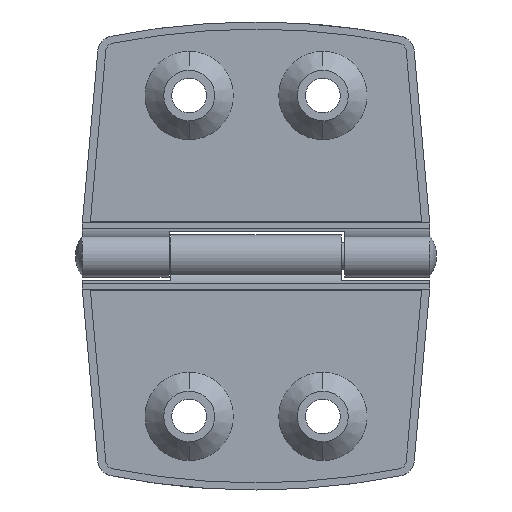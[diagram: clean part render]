
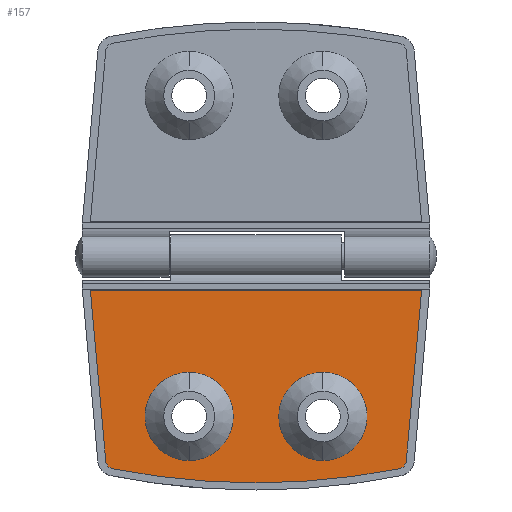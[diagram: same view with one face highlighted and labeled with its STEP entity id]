
A CAD part, front view. The second image highlights one B-rep face of the part: STEP entity #157.
In plain terms, the highlighted planar face has unit normal (0, -1, 0).
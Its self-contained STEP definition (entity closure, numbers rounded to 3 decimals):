
#157=ADVANCED_FACE('',(#290,#291,#292),#293,.F.);
#290=FACE_BOUND('',#494,.T.);
#291=FACE_BOUND('',#495,.T.);
#292=FACE_OUTER_BOUND('',#496,.T.);
#293=PLANE('',#497);
#494=EDGE_LOOP('',(#886,#887));
#495=EDGE_LOOP('',(#888,#889));
#496=EDGE_LOOP('',(#890,#891,#892,#893,#894,#895,#896));
#497=AXIS2_PLACEMENT_3D('',#897,#898,#899);
#886=ORIENTED_EDGE('',*,*,#1425,.T.);
#887=ORIENTED_EDGE('',*,*,#1488,.T.);
#888=ORIENTED_EDGE('',*,*,#1421,.T.);
#889=ORIENTED_EDGE('',*,*,#1490,.T.);
#890=ORIENTED_EDGE('',*,*,#1491,.T.);
#891=ORIENTED_EDGE('',*,*,#1495,.T.);
#892=ORIENTED_EDGE('',*,*,#1417,.T.);
#893=ORIENTED_EDGE('',*,*,#1499,.T.);
#894=ORIENTED_EDGE('',*,*,#1500,.T.);
#895=ORIENTED_EDGE('',*,*,#1503,.T.);
#896=ORIENTED_EDGE('',*,*,#1506,.T.);
#897=CARTESIAN_POINT('',(26.0,-1.2,-18.355));
#898=DIRECTION('',(0.,1.0,0.));
#899=DIRECTION('',(0.,0.0,-1.0));
#1417=EDGE_CURVE('',#1677,#1674,#1678,.T.);
#1421=EDGE_CURVE('',#1685,#1682,#1686,.T.);
#1425=EDGE_CURVE('',#1693,#1690,#1694,.T.);
#1488=EDGE_CURVE('',#1690,#1693,#1799,.T.);
#1490=EDGE_CURVE('',#1682,#1685,#1801,.T.);
#1491=EDGE_CURVE('',#1802,#1803,#1804,.T.);
#1495=EDGE_CURVE('',#1803,#1677,#1810,.T.);
#1499=EDGE_CURVE('',#1674,#1814,#1816,.T.);
#1500=EDGE_CURVE('',#1814,#1817,#1818,.T.);
#1503=EDGE_CURVE('',#1817,#1822,#1823,.T.);
#1506=EDGE_CURVE('',#1822,#1802,#1827,.T.);
#1674=VERTEX_POINT('',#2107);
#1677=VERTEX_POINT('',#2111);
#1678=CIRCLE('',#2112,110.5);
#1682=VERTEX_POINT('',#2117);
#1685=VERTEX_POINT('',#2121);
#1686=CIRCLE('',#2122,6.6);
#1690=VERTEX_POINT('',#2127);
#1693=VERTEX_POINT('',#2131);
#1694=CIRCLE('',#2132,6.6);
#1799=CIRCLE('',#2262,6.6);
#1801=CIRCLE('',#2264,6.6);
#1802=VERTEX_POINT('',#2265);
#1803=VERTEX_POINT('',#2266);
#1804=LINE('',#2267,#2268);
#1810=CIRCLE('',#2277,1.3);
#1814=VERTEX_POINT('',#2281);
#1816=CIRCLE('',#2284,110.5);
#1817=VERTEX_POINT('',#2285);
#1818=CIRCLE('',#2286,1.3);
#1822=VERTEX_POINT('',#2291);
#1823=LINE('',#2292,#2293);
#1827=LINE('',#2299,#2300);
#2107=CARTESIAN_POINT('',(26.,-1.2,-33.927));
#2111=CARTESIAN_POINT('',(4.571,-1.2,-31.829));
#2112=AXIS2_PLACEMENT_3D('',#2876,#2877,#2878);
#2117=CARTESIAN_POINT('',(16.0,-1.2,-30.6));
#2121=CARTESIAN_POINT('',(16.0,-1.2,-17.4));
#2122=AXIS2_PLACEMENT_3D('',#2884,#2885,#2886);
#2127=CARTESIAN_POINT('',(36.0,-1.2,-30.6));
#2131=CARTESIAN_POINT('',(36.0,-1.2,-17.4));
#2132=AXIS2_PLACEMENT_3D('',#2892,#2893,#2894);
#2262=AXIS2_PLACEMENT_3D('',#3031,#3032,#3033);
#2264=AXIS2_PLACEMENT_3D('',#3037,#3038,#3039);
#2265=CARTESIAN_POINT('',(1.226,-1.2,-5.127));
#2266=CARTESIAN_POINT('',(3.529,-1.2,-30.67));
#2267=CARTESIAN_POINT('',(3.529,-1.2,-30.67));
#2268=VECTOR('',#3040,1.0);
#2277=AXIS2_PLACEMENT_3D('',#3044,#3045,#3046);
#2281=CARTESIAN_POINT('',(47.429,-1.2,-31.829));
#2284=AXIS2_PLACEMENT_3D('',#3054,#3055,#3056);
#2285=CARTESIAN_POINT('',(48.471,-1.2,-30.67));
#2286=AXIS2_PLACEMENT_3D('',#3057,#3058,#3059);
#2291=CARTESIAN_POINT('',(50.774,-1.2,-5.127));
#2292=CARTESIAN_POINT('',(50.774,-1.2,-5.127));
#2293=VECTOR('',#3064,1.);
#2299=CARTESIAN_POINT('',(1.226,-1.2,-5.127));
#2300=VECTOR('',#3067,1.0);
#2876=CARTESIAN_POINT('',(26.0,-1.2,76.573));
#2877=DIRECTION('',(0.,-1.0,0.));
#2878=DIRECTION('',(0.,0.,-1.0));
#2884=CARTESIAN_POINT('',(16.0,-1.2,-24.0));
#2885=DIRECTION('',(0.,1.0,0.));
#2886=DIRECTION('',(0.,0.0,-1.0));
#2892=CARTESIAN_POINT('',(36.0,-1.2,-24.0));
#2893=DIRECTION('',(0.,1.0,0.));
#2894=DIRECTION('',(0.,0.0,-1.0));
#3031=CARTESIAN_POINT('',(36.0,-1.2,-24.0));
#3032=DIRECTION('',(0.,1.0,0.));
#3033=DIRECTION('',(0.,0.0,-1.0));
#3037=CARTESIAN_POINT('',(16.0,-1.2,-24.0));
#3038=DIRECTION('',(0.,1.0,0.));
#3039=DIRECTION('',(0.,0.0,-1.0));
#3040=DIRECTION('',(0.09,0.,-0.996));
#3044=CARTESIAN_POINT('',(4.823,-1.2,-30.554));
#3045=DIRECTION('',(0.,-1.0,0.));
#3046=DIRECTION('',(0.,0.,-1.0));
#3054=CARTESIAN_POINT('',(26.0,-1.2,76.573));
#3055=DIRECTION('',(0.,-1.0,0.));
#3056=DIRECTION('',(0.,0.,-1.0));
#3057=CARTESIAN_POINT('',(47.177,-1.2,-30.554));
#3058=DIRECTION('',(0.,-1.0,0.));
#3059=DIRECTION('',(0.,0.0,-1.0));
#3064=DIRECTION('',(0.09,0.,0.996));
#3067=DIRECTION('',(-1.0,0.,0.));
